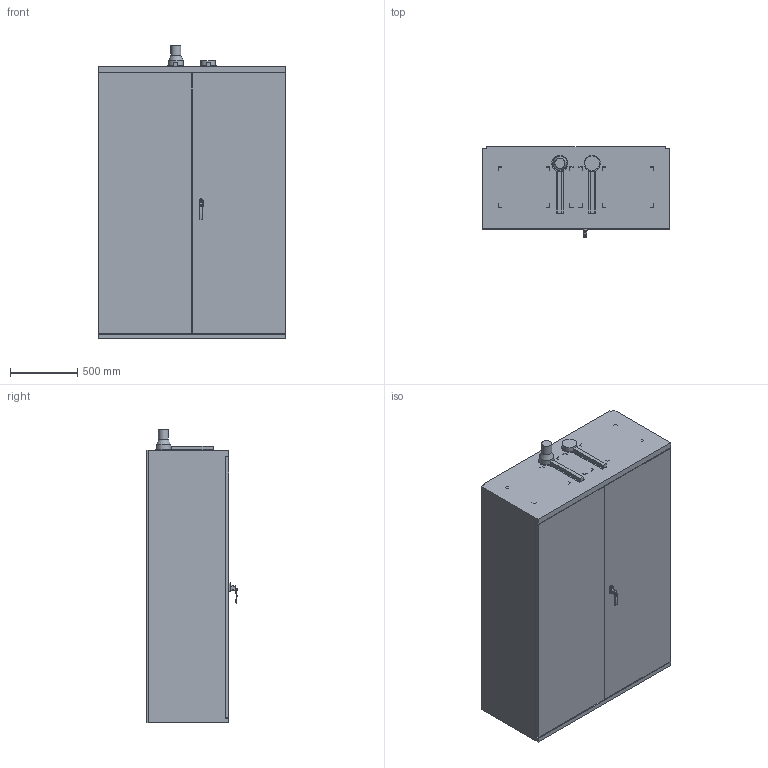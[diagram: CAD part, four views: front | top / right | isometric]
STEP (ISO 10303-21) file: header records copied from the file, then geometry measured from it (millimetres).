
FILE_DESCRIPTION(/* description */ ('Unknown'),/* implementation_level */ '2;1');
FILE_NAME(/* name */ '79-201460_VDK',/* time_stamp */ '2019-04-23T10:34:43+02:00',/* author */ ('Unknown'),/* organization */ ('Unknown'),/* preprocessor_version */ 'ST-DEVELOPER v16.7',/* originating_system */ 'DEX',/* authorisation */ $);
FILE_SCHEMA (('AUTOMOTIVE_DESIGN {1 0 10303 214 3 1 1}'));
Length unit declared in the file: millimetre
Products named in the file (1): 79-201460_VDK
Bounding box: 1395 x 671.2 x 2187 mm (x, y, z)
Volume: 1726616414.5 mm3; surface area: 10182775.8 mm2
Topology: 1 solids, 1 shells, 178 faces, 439 edges, 284 vertices
Faces by surface type: plane 141, cylinder 22, bspline 10, sphere 2, torus 2, cone 1
Full cylindrical faces by diameter (mm): 15 x1, 20 x1, 75 x1, 110 x2, 120 x2
Entity records: 6621 total; most frequent: CARTESIAN_POINT 1230, ORIENTED_EDGE 848, DIRECTION 795, EDGE_CURVE 424, LINE 357, VECTOR 357, VERTEX_POINT 281, AXIS2_PLACEMENT_3D 219
